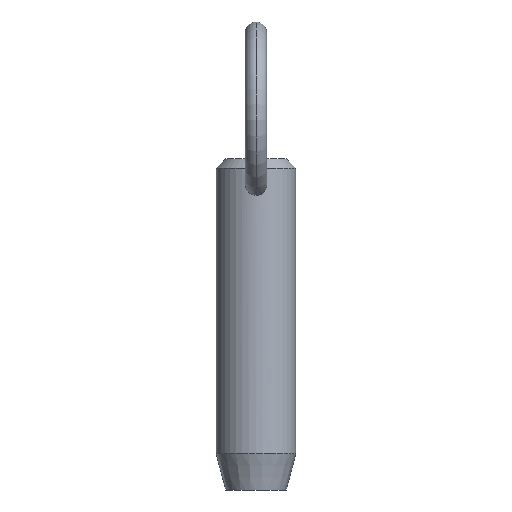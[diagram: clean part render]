
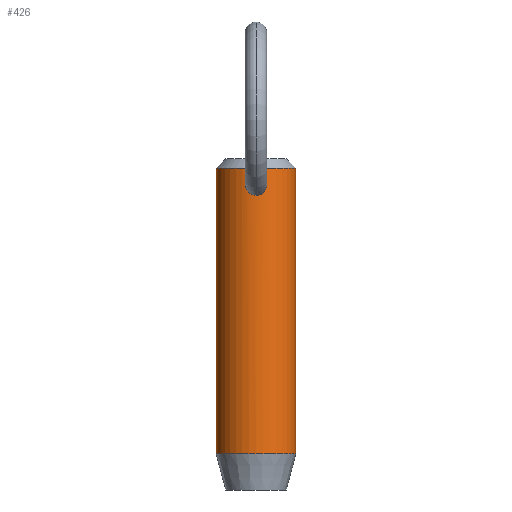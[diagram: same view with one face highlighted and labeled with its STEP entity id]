
A CAD part, front view. The second image highlights one B-rep face of the part: STEP entity #426.
In plain terms, the highlighted cylindrical face has radius 5.55 mm (diameter 11.1 mm), a partial arc.
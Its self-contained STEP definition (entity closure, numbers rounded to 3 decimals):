
#5 = AXIS2_PLACEMENT_3D ( 'NONE', #233, #188, #276 ) ;
#10 = CARTESIAN_POINT ( 'NONE',  ( 1.5, -5.343, 28.154 ) ) ;
#11 = CARTESIAN_POINT ( 'NONE',  ( 1.26, -5.407, 27.343 ) ) ;
#16 = CARTESIAN_POINT ( 'NONE',  ( 1.055, -5.449, 27.105 ) ) ;
#23 = CARTESIAN_POINT ( 'NONE',  ( -0.107, -5.55, 26.677 ) ) ;
#24 = CARTESIAN_POINT ( 'NONE',  ( 0., 0., 25.4 ) ) ;
#26 = FACE_OUTER_BOUND ( 'NONE', #499, .T. ) ;
#28 = CARTESIAN_POINT ( 'NONE',  ( -0.976, -5.464, 27.031 ) ) ;
#35 = CARTESIAN_POINT ( 'NONE',  ( -5.55, 0., -9.2 ) ) ;
#53 = CARTESIAN_POINT ( 'NONE',  ( 0.807, -5.492, 26.906 ) ) ;
#60 = VECTOR ( 'NONE', #67, 1000. ) ;
#67 = DIRECTION ( 'NONE',  ( 0., 0., -1. ) ) ;
#68 = CARTESIAN_POINT ( 'NONE',  ( -1.362, -5.381, 27.532 ) ) ;
#74 = CARTESIAN_POINT ( 'NONE',  ( -1.294, -5.398, 29.186 ) ) ;
#91 = CARTESIAN_POINT ( 'NONE',  ( 1.44, -5.36, 28.786 ) ) ;
#92 = CARTESIAN_POINT ( 'NONE',  ( 5.55, 0., 30.45 ) ) ;
#93 = ORIENTED_EDGE ( 'NONE', *, *, #152, .T. ) ;
#95 = CARTESIAN_POINT ( 'NONE',  ( 0.786, -5.497, 29.857 ) ) ;
#97 = DIRECTION ( 'NONE',  ( -1., 0., 0. ) ) ;
#106 = VERTEX_POINT ( 'NONE', #35 ) ;
#111 = CARTESIAN_POINT ( 'NONE',  ( -0.716, -5.504, 26.852 ) ) ;
#115 = DIRECTION ( 'NONE',  ( 0., 0., -1. ) ) ;
#131 = CARTESIAN_POINT ( 'NONE',  ( 0.214, -5.547, 30.128 ) ) ;
#132 = B_SPLINE_CURVE_WITH_KNOTS ( 'NONE', 3,
 ( #347, #432, #131, #178, #465, #95, #217, #502, #260, #91, #458, #216, #10, #339, #501, #498, #11, #16, #462, #53, #256, #212, #345, #253, #301, #133 ),
 .UNSPECIFIED., .F., .F.,
 ( 4, 2, 2, 2, 2, 2, 2, 2, 2, 2, 2, 2, 4 ),
 ( 0.005, 0.005, 0.005, 0.006, 0.006, 0.007, 0.007, 0.008, 0.008, 0.009, 0.009, 0.009, 0.01 ),
 .UNSPECIFIED. ) ;
#133 = CARTESIAN_POINT ( 'NONE',  ( 0., -5.55, 26.677 ) ) ;
#134 = EDGE_LOOP ( 'NONE', ( #180, #373 ) ) ;
#136 = CARTESIAN_POINT ( 'NONE',  ( -0.416, -5.535, 30.067 ) ) ;
#144 = VERTEX_POINT ( 'NONE', #484 ) ;
#145 = DIRECTION ( 'NONE',  ( 0., 0., -1. ) ) ;
#148 = FACE_BOUND ( 'NONE', #134, .T. ) ;
#149 = CARTESIAN_POINT ( 'NONE',  ( -1.477, -5.35, 27.942 ) ) ;
#152 = EDGE_CURVE ( 'NONE', #406, #106, #266, .T. ) ;
#167 = VERTEX_POINT ( 'NONE', #207 ) ;
#170 = LINE ( 'NONE', #194, #60 ) ;
#172 = EDGE_CURVE ( 'NONE', #411, #167, #170, .T. ) ;
#177 = AXIS2_PLACEMENT_3D ( 'NONE', #24, #315, #97 ) ;
#178 = CARTESIAN_POINT ( 'NONE',  ( 0.417, -5.535, 30.067 ) ) ;
#180 = ORIENTED_EDGE ( 'NONE', *, *, #279, .T. ) ;
#181 = EDGE_CURVE ( 'NONE', #106, #167, #390, .T. ) ;
#188 = DIRECTION ( 'NONE',  ( 0., 0., 1. ) ) ;
#189 = CARTESIAN_POINT ( 'NONE',  ( -1.054, -5.449, 27.104 ) ) ;
#192 = VERTEX_POINT ( 'NONE', #441 ) ;
#194 = CARTESIAN_POINT ( 'NONE',  ( 5.55, 0., 25.4 ) ) ;
#207 = CARTESIAN_POINT ( 'NONE',  ( 5.55, 0., -9.2 ) ) ;
#212 = CARTESIAN_POINT ( 'NONE',  ( 0.523, -5.526, 26.766 ) ) ;
#215 = CARTESIAN_POINT ( 'NONE',  ( -0.211, -5.547, 30.129 ) ) ;
#216 = CARTESIAN_POINT ( 'NONE',  ( 1.503, -5.343, 28.259 ) ) ;
#217 = CARTESIAN_POINT ( 'NONE',  ( 0.941, -5.471, 29.707 ) ) ;
#233 = CARTESIAN_POINT ( 'NONE',  ( 0., 0., -9.2 ) ) ;
#234 = CARTESIAN_POINT ( 'NONE',  ( -1.485, -5.348, 28.579 ) ) ;
#253 = CARTESIAN_POINT ( 'NONE',  ( 0.213, -5.547, 26.688 ) ) ;
#256 = CARTESIAN_POINT ( 'NONE',  ( 0.716, -5.504, 26.852 ) ) ;
#260 = CARTESIAN_POINT ( 'NONE',  ( 1.295, -5.397, 29.182 ) ) ;
#266 = LINE ( 'NONE', #280, #492 ) ;
#271 = CARTESIAN_POINT ( 'NONE',  ( -0.42, -5.535, 26.732 ) ) ;
#273 = EDGE_CURVE ( 'NONE', #192, #144, #292, .T. ) ;
#276 = DIRECTION ( 'NONE',  ( -1., 0., 0. ) ) ;
#279 = EDGE_CURVE ( 'NONE', #144, #192, #132, .T. ) ;
#280 = CARTESIAN_POINT ( 'NONE',  ( -5.55, 0., 25.4 ) ) ;
#292 = B_SPLINE_CURVE_WITH_KNOTS ( 'NONE', 3,
 ( #444, #23, #519, #271, #515, #111, #365, #28, #189, #314, #68, #362, #149, #442, #477, #234, #317, #74, #334, #376, #414, #496, #136, #215, #349, #341 ),
 .UNSPECIFIED., .F., .F.,
 ( 4, 2, 2, 2, 2, 2, 2, 2, 2, 2, 2, 2, 4 ),
 ( 0.01, 0.01, 0.01, 0.011, 0.011, 0.012, 0.012, 0.012, 0.013, 0.013, 0.014, 0.014, 0.015 ),
 .UNSPECIFIED. ) ;
#301 = CARTESIAN_POINT ( 'NONE',  ( 0.107, -5.55, 26.677 ) ) ;
#307 = DIRECTION ( 'NONE',  ( 1., 0., 0. ) ) ;
#314 = CARTESIAN_POINT ( 'NONE',  ( -1.26, -5.407, 27.342 ) ) ;
#315 = DIRECTION ( 'NONE',  ( 0., 0., -1. ) ) ;
#317 = CARTESIAN_POINT ( 'NONE',  ( -1.44, -5.36, 28.787 ) ) ;
#319 = CYLINDRICAL_SURFACE ( 'NONE', #177, 5.55 ) ;
#334 = CARTESIAN_POINT ( 'NONE',  ( -1.195, -5.421, 29.371 ) ) ;
#339 = CARTESIAN_POINT ( 'NONE',  ( 1.477, -5.35, 27.944 ) ) ;
#341 = CARTESIAN_POINT ( 'NONE',  ( 0., -5.55, 30.145 ) ) ;
#345 = CARTESIAN_POINT ( 'NONE',  ( 0.421, -5.535, 26.732 ) ) ;
#347 = CARTESIAN_POINT ( 'NONE',  ( 0., -5.55, 30.145 ) ) ;
#349 = CARTESIAN_POINT ( 'NONE',  ( -0.106, -5.55, 30.145 ) ) ;
#351 = CARTESIAN_POINT ( 'NONE',  ( 0., 0., 30.45 ) ) ;
#361 = CARTESIAN_POINT ( 'NONE',  ( -5.55, 0., 30.45 ) ) ;
#362 = CARTESIAN_POINT ( 'NONE',  ( -1.455, -5.356, 27.836 ) ) ;
#363 = AXIS2_PLACEMENT_3D ( 'NONE', #351, #145, #307 ) ;
#365 = CARTESIAN_POINT ( 'NONE',  ( -0.807, -5.492, 26.905 ) ) ;
#373 = ORIENTED_EDGE ( 'NONE', *, *, #273, .T. ) ;
#376 = CARTESIAN_POINT ( 'NONE',  ( -0.939, -5.472, 29.71 ) ) ;
#390 = CIRCLE ( 'NONE', #5, 5.55 ) ;
#406 = VERTEX_POINT ( 'NONE', #361 ) ;
#411 = VERTEX_POINT ( 'NONE', #92 ) ;
#414 = CARTESIAN_POINT ( 'NONE',  ( -0.785, -5.497, 29.858 ) ) ;
#426 = ADVANCED_FACE ( 'NONE', ( #26, #148 ), #319, .T. ) ;
#432 = CARTESIAN_POINT ( 'NONE',  ( 0.106, -5.55, 30.145 ) ) ;
#440 = EDGE_CURVE ( 'NONE', #411, #406, #464, .T. ) ;
#441 = CARTESIAN_POINT ( 'NONE',  ( 0., -5.55, 26.677 ) ) ;
#442 = CARTESIAN_POINT ( 'NONE',  ( -1.5, -5.343, 28.153 ) ) ;
#444 = CARTESIAN_POINT ( 'NONE',  ( 0., -5.55, 26.677 ) ) ;
#456 = ORIENTED_EDGE ( 'NONE', *, *, #181, .T. ) ;
#458 = CARTESIAN_POINT ( 'NONE',  ( 1.486, -5.347, 28.574 ) ) ;
#462 = CARTESIAN_POINT ( 'NONE',  ( 0.977, -5.464, 27.032 ) ) ;
#464 = CIRCLE ( 'NONE', #363, 5.55 ) ;
#465 = CARTESIAN_POINT ( 'NONE',  ( 0.515, -5.527, 30.022 ) ) ;
#477 = CARTESIAN_POINT ( 'NONE',  ( -1.503, -5.343, 28.259 ) ) ;
#484 = CARTESIAN_POINT ( 'NONE',  ( 0., -5.55, 30.145 ) ) ;
#489 = ORIENTED_EDGE ( 'NONE', *, *, #172, .F. ) ;
#492 = VECTOR ( 'NONE', #115, 1000. ) ;
#496 = CARTESIAN_POINT ( 'NONE',  ( -0.513, -5.527, 30.023 ) ) ;
#498 = CARTESIAN_POINT ( 'NONE',  ( 1.363, -5.38, 27.534 ) ) ;
#499 = EDGE_LOOP ( 'NONE', ( #489, #514, #93, #456 ) ) ;
#501 = CARTESIAN_POINT ( 'NONE',  ( 1.455, -5.356, 27.838 ) ) ;
#502 = CARTESIAN_POINT ( 'NONE',  ( 1.194, -5.422, 29.371 ) ) ;
#514 = ORIENTED_EDGE ( 'NONE', *, *, #440, .T. ) ;
#515 = CARTESIAN_POINT ( 'NONE',  ( -0.523, -5.526, 26.766 ) ) ;
#519 = CARTESIAN_POINT ( 'NONE',  ( -0.212, -5.547, 26.688 ) ) ;
